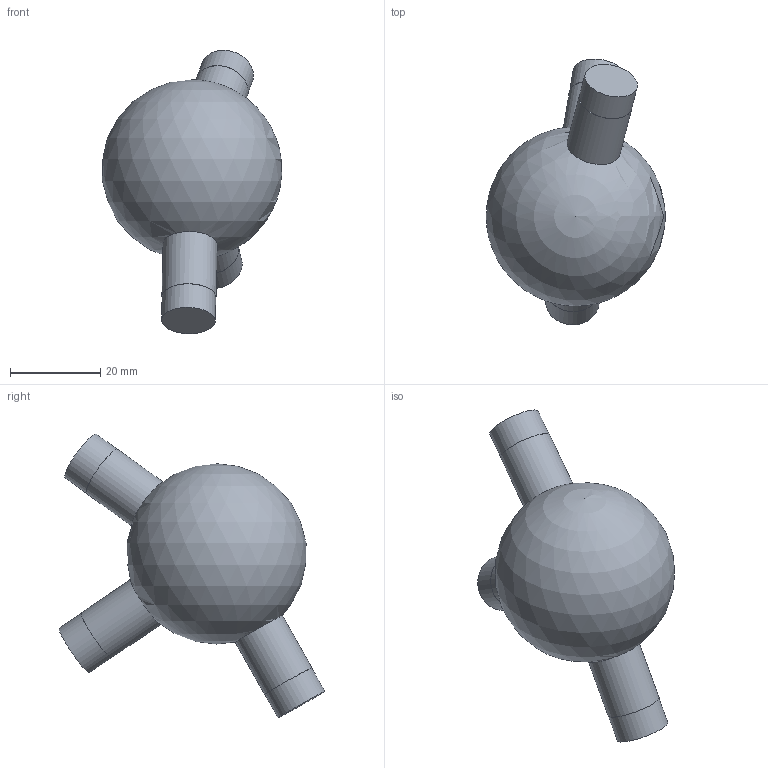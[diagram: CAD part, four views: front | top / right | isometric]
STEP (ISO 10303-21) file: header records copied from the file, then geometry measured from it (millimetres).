
FILE_DESCRIPTION(('Open CASCADE Model'),'2;1');
FILE_NAME('Open CASCADE Shape Model','2026-10-21T12:47:57',('Author'),( 'Open CASCADE'),'Open CASCADE STEP processor 7.9','Open CASCADE 7.9' ,'Unknown');
FILE_SCHEMA(('AUTOMOTIVE_DESIGN { 1 0 10303 214 1 1 1 1 }'));
Length unit declared in the file: millimetre
Products named in the file (1): Open CASCADE STEP translator 7.9 127
Bounding box: 39.82 x 58.95 x 62.89 mm (x, y, z)
Volume: 39818.8 mm3; surface area: 7179.5 mm2
Topology: 1 solids, 1 shells, 13 faces, 21 edges, 14 vertices
Faces by surface type: cylinder 6, plane 6, sphere 1
Full cylindrical faces by diameter (mm): 11.9 x3, 12 x3
Entity records: 753 total; most frequent: CARTESIAN_POINT 308, DIRECTION 91, ORIENTED_EDGE 36, PCURVE 36, DEFINITIONAL_REPRESENTATION 36, LINE 30, VECTOR 30, AXIS2_PLACEMENT_3D 26
